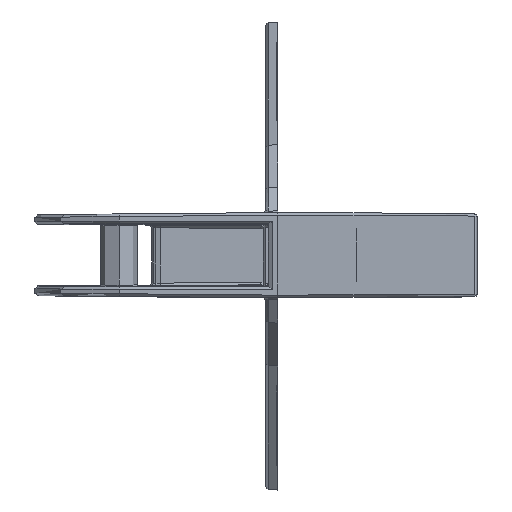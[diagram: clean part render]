
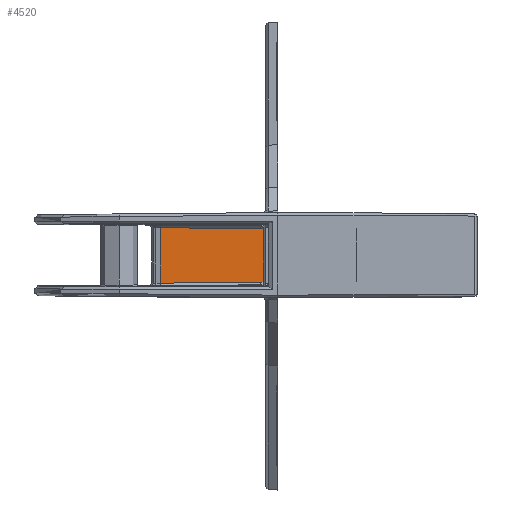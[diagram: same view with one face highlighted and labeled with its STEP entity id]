
A CAD part, top view. The second image highlights one B-rep face of the part: STEP entity #4520.
In plain terms, the highlighted planar face has unit normal (-0.018, 0, 1).
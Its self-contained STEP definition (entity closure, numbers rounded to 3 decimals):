
#91=PLANE('',#14719);
#4520=ADVANCED_FACE('',(#4898),#91,.T.);
#4898=FACE_OUTER_BOUND('',#5277,.T.);
#5277=EDGE_LOOP('',(#6415,#6416,#6417,#6418,#6419,#6420));
#6415=ORIENTED_EDGE('',*,*,#8659,.T.);
#6416=ORIENTED_EDGE('',*,*,#8662,.T.);
#6417=ORIENTED_EDGE('',*,*,#8661,.T.);
#6418=ORIENTED_EDGE('',*,*,#8657,.T.);
#6419=ORIENTED_EDGE('',*,*,#8658,.T.);
#6420=ORIENTED_EDGE('',*,*,#8660,.T.);
#8657=EDGE_CURVE('',#13123,#13122,#10517,.T.);
#8658=EDGE_CURVE('',#13122,#13124,#10518,.T.);
#8659=EDGE_CURVE('',#13125,#13126,#10519,.T.);
#8660=EDGE_CURVE('',#13124,#13125,#10520,.T.);
#8661=EDGE_CURVE('',#13127,#13123,#10521,.T.);
#8662=EDGE_CURVE('',#13126,#13127,#10522,.T.);
#10517=B_SPLINE_CURVE_WITH_KNOTS('',1,(#25939,#25940),.UNSPECIFIED.,.F.,
 .F.,(2,2),(0.,10.524),.UNSPECIFIED.);
#10518=B_SPLINE_CURVE_WITH_KNOTS('',1,(#25941,#25942),.UNSPECIFIED.,.F.,
 .F.,(2,2),(-19.014,0.),.UNSPECIFIED.);
#10519=B_SPLINE_CURVE_WITH_KNOTS('',1,(#25943,#25944),.UNSPECIFIED.,.F.,
 .F.,(2,2),(-10.182,0.),.UNSPECIFIED.);
#10520=B_SPLINE_CURVE_WITH_KNOTS('',1,(#25945,#25946),.UNSPECIFIED.,.F.,
 .F.,(2,2),(0.,0.531),.UNSPECIFIED.);
#10521=B_SPLINE_CURVE_WITH_KNOTS('',1,(#25947,#25948),.UNSPECIFIED.,.F.,
 .F.,(2,2),(0.,19.014),.UNSPECIFIED.);
#10522=B_SPLINE_CURVE_WITH_KNOTS('',1,(#25949,#25950),.UNSPECIFIED.,.F.,
 .F.,(2,2),(-0.531,0.),.UNSPECIFIED.);
#13122=VERTEX_POINT('',#25933);
#13123=VERTEX_POINT('',#25934);
#13124=VERTEX_POINT('',#25935);
#13125=VERTEX_POINT('',#25936);
#13126=VERTEX_POINT('',#25937);
#13127=VERTEX_POINT('',#25938);
#14719=AXIS2_PLACEMENT_3D('',#25932,#14819,$);
#14819=DIRECTION('',(-0.017,0.,1.));
#25932=CARTESIAN_POINT('',(36.922,-165.475,-206.863));
#25933=CARTESIAN_POINT('',(40.001,-163.317,-206.809));
#25934=CARTESIAN_POINT('',(40.001,-152.793,-206.809));
#25935=CARTESIAN_POINT('',(59.011,-163.151,-206.477));
#25936=CARTESIAN_POINT('',(59.543,-163.146,-206.468));
#25937=CARTESIAN_POINT('',(59.543,-152.964,-206.468));
#25938=CARTESIAN_POINT('',(59.011,-152.959,-206.477));
#25939=CARTESIAN_POINT('',(40.001,-152.793,-206.809));
#25940=CARTESIAN_POINT('',(40.001,-163.317,-206.809));
#25941=CARTESIAN_POINT('',(40.001,-163.317,-206.809));
#25942=CARTESIAN_POINT('',(59.011,-163.151,-206.477));
#25943=CARTESIAN_POINT('',(59.543,-163.146,-206.468));
#25944=CARTESIAN_POINT('',(59.543,-152.964,-206.468));
#25945=CARTESIAN_POINT('',(59.011,-163.151,-206.477));
#25946=CARTESIAN_POINT('',(59.543,-163.146,-206.468));
#25947=CARTESIAN_POINT('',(59.011,-152.959,-206.477));
#25948=CARTESIAN_POINT('',(40.001,-152.793,-206.809));
#25949=CARTESIAN_POINT('',(59.543,-152.964,-206.468));
#25950=CARTESIAN_POINT('',(59.011,-152.959,-206.477));
